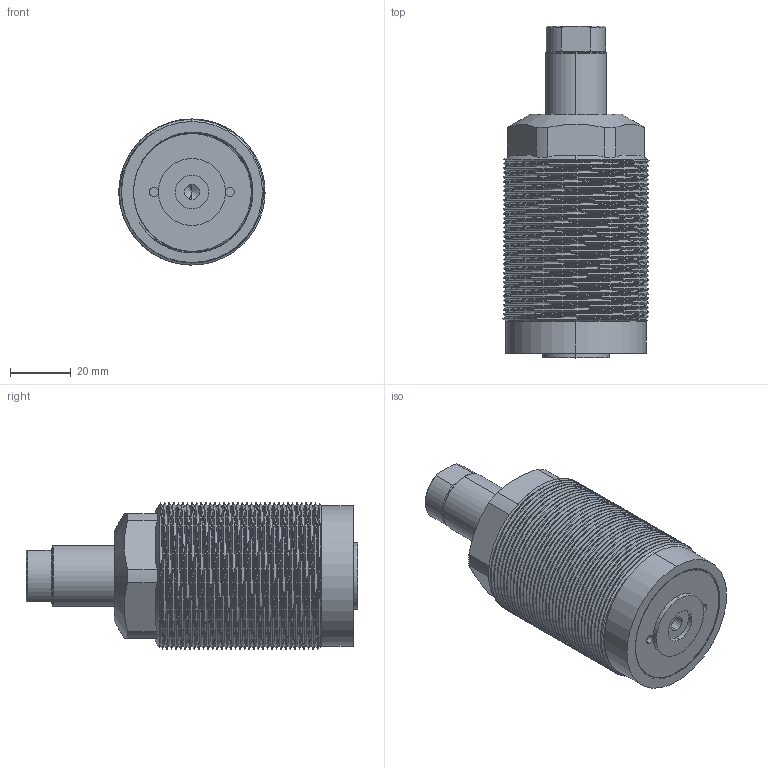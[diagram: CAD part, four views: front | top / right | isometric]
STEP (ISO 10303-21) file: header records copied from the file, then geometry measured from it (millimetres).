
FILE_DESCRIPTION (( 'STEP AP214' ), '1' );
FILE_NAME ('×°ÅäÌå1.STEP', '2022-07-01T08:14:12', ( 'PC' ), ( '' ), 'SwSTEP 2.0', 'SolidWorks 2016', '' );
FILE_SCHEMA (( 'AUTOMOTIVE_DESIGN' ));
Length unit declared in the file: millimetre
Products named in the file (4): CTC-PD048-20油压单动缸活塞杆; CTC-PD048-20蚐揤等雄詰掛极; 蚾饜极1; CTC-PD048-20蚐揤等雄詰綴裔
Assembly tree (3 placements, depth 2):
  蚾饜极1
    CTC-PD048-20蚐揤等雄詰掛极
    CTC-PD048-20油压单动缸活塞杆
    CTC-PD048-20蚐揤等雄詰綴裔
Bounding box: 47.98 x 109 x 48 mm (x, y, z)
Volume: 95413.6 mm3; surface area: 45344.4 mm2
Topology: 3 solids, 3 shells, 315 faces, 811 edges, 517 vertices
Faces by surface type: cylinder 180, torus 46, plane 45, cone 32, bspline 12
Entity records: 19805 total; most frequent: CARTESIAN_POINT 12618, ORIENTED_EDGE 1614, DIRECTION 1411, EDGE_CURVE 807, AXIS2_PLACEMENT_3D 590, VERTEX_POINT 517, EDGE_LOOP 342, FACE_OUTER_BOUND 315
